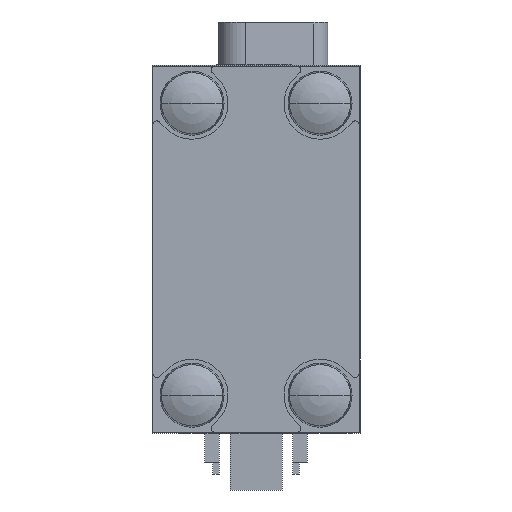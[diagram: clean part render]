
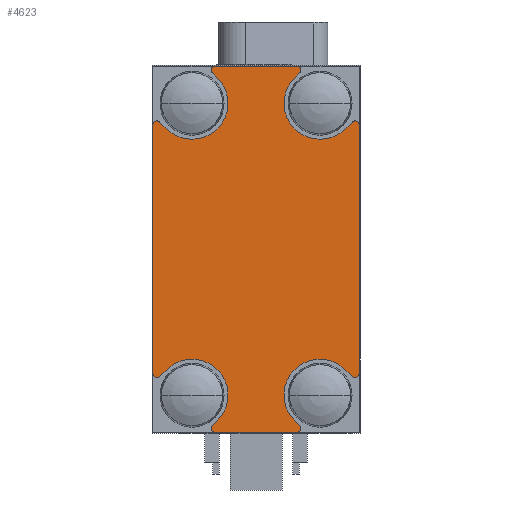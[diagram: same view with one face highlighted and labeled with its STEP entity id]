
A CAD part, front view. The second image highlights one B-rep face of the part: STEP entity #4623.
In plain terms, the highlighted planar face has unit normal (0, -1, 0).
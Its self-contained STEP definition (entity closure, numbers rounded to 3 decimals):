
#1720=DIRECTION('',(0.725,0.,-0.688));
#1721=VECTOR('',#1720,0.76);
#1722=CARTESIAN_POINT('',(4.902,-25.5,-44.514));
#1723=LINE('',#1722,#1721);
#1724=CARTESIAN_POINT('',(5.109,-25.5,-45.4));
#1725=DIRECTION('',(0.,-1.,0.));
#1726=DIRECTION('',(0.,0.,-1.));
#1727=AXIS2_PLACEMENT_3D('',#1724,#1725,#1726);
#1729=DIRECTION('',(1.,0.,0.));
#1730=VECTOR('',#1729,10.219);
#1731=CARTESIAN_POINT('',(-5.109,-25.5,-45.9));
#1732=LINE('',#1731,#1730);
#1733=CARTESIAN_POINT('',(-5.109,-25.5,-45.4));
#1734=DIRECTION('',(0.,-1.,0.));
#1735=DIRECTION('',(-0.688,0.,0.725));
#1736=AXIS2_PLACEMENT_3D('',#1733,#1734,#1735);
#1738=DIRECTION('',(0.725,0.,0.688));
#1739=VECTOR('',#1738,0.76);
#1740=CARTESIAN_POINT('',(-5.454,-25.5,-45.037));
#1741=LINE('',#1740,#1739);
#1742=CARTESIAN_POINT('',(-8.,-25.5,-41.25));
#1743=DIRECTION('',(0.,-1.,0.));
#1744=DIRECTION('',(0.688,0.,-0.725));
#1745=AXIS2_PLACEMENT_3D('',#1742,#1743,#1744);
#1747=DIRECTION('',(-0.725,0.,-0.688));
#1748=VECTOR('',#1747,1.321);
#1749=CARTESIAN_POINT('',(-11.098,-25.5,-37.986));
#1750=LINE('',#1749,#1748);
#1751=CARTESIAN_POINT('',(-12.4,-25.5,-38.532));
#1752=DIRECTION('',(0.,-1.,0.));
#1753=DIRECTION('',(-1.,0.,0.));
#1754=AXIS2_PLACEMENT_3D('',#1751,#1752,#1753);
#1756=DIRECTION('',(0.,0.,-1.));
#1757=VECTOR('',#1756,31.065);
#1758=CARTESIAN_POINT('',(-12.9,-25.5,-7.468));
#1759=LINE('',#1758,#1757);
#1760=CARTESIAN_POINT('',(-12.4,-25.5,-7.468));
#1761=DIRECTION('',(0.,-1.,0.));
#1762=DIRECTION('',(0.688,0.,0.725));
#1763=AXIS2_PLACEMENT_3D('',#1760,#1761,#1762);
#1765=DIRECTION('',(0.725,0.,-0.688));
#1766=VECTOR('',#1765,1.321);
#1767=CARTESIAN_POINT('',(-12.056,-25.5,-7.105));
#1768=LINE('',#1767,#1766);
#1769=CARTESIAN_POINT('',(-8.,-25.5,-4.75));
#1770=DIRECTION('',(0.,-1.,0.));
#1771=DIRECTION('',(-0.688,0.,-0.725));
#1772=AXIS2_PLACEMENT_3D('',#1769,#1770,#1771);
#1774=DIRECTION('',(-0.725,0.,0.688));
#1775=VECTOR('',#1774,0.76);
#1776=CARTESIAN_POINT('',(-4.902,-25.5,-1.486));
#1777=LINE('',#1776,#1775);
#1778=CARTESIAN_POINT('',(-5.109,-25.5,-0.6));
#1779=DIRECTION('',(0.,-1.,0.));
#1780=DIRECTION('',(0.,0.,1.));
#1781=AXIS2_PLACEMENT_3D('',#1778,#1779,#1780);
#1783=DIRECTION('',(-1.,0.,0.));
#1784=VECTOR('',#1783,10.219);
#1785=CARTESIAN_POINT('',(5.109,-25.5,-0.1));
#1786=LINE('',#1785,#1784);
#1787=CARTESIAN_POINT('',(5.109,-25.5,-0.6));
#1788=DIRECTION('',(0.,-1.,0.));
#1789=DIRECTION('',(0.688,0.,-0.725));
#1790=AXIS2_PLACEMENT_3D('',#1787,#1788,#1789);
#1792=DIRECTION('',(-0.725,0.,-0.688));
#1793=VECTOR('',#1792,0.76);
#1794=CARTESIAN_POINT('',(5.454,-25.5,-0.963));
#1795=LINE('',#1794,#1793);
#1796=CARTESIAN_POINT('',(8.,-25.5,-4.75));
#1797=DIRECTION('',(0.,-1.,0.));
#1798=DIRECTION('',(-0.688,0.,0.725));
#1799=AXIS2_PLACEMENT_3D('',#1796,#1797,#1798);
#1801=DIRECTION('',(0.725,0.,0.688));
#1802=VECTOR('',#1801,1.321);
#1803=CARTESIAN_POINT('',(11.098,-25.5,-8.014));
#1804=LINE('',#1803,#1802);
#1805=CARTESIAN_POINT('',(12.4,-25.5,-7.468));
#1806=DIRECTION('',(0.,-1.,0.));
#1807=DIRECTION('',(1.,0.,0.));
#1808=AXIS2_PLACEMENT_3D('',#1805,#1806,#1807);
#1810=DIRECTION('',(0.,0.,1.));
#1811=VECTOR('',#1810,31.065);
#1812=CARTESIAN_POINT('',(12.9,-25.5,-38.532));
#1813=LINE('',#1812,#1811);
#1814=CARTESIAN_POINT('',(12.4,-25.5,-38.532));
#1815=DIRECTION('',(0.,-1.,0.));
#1816=DIRECTION('',(-0.688,0.,-0.725));
#1817=AXIS2_PLACEMENT_3D('',#1814,#1815,#1816);
#1819=DIRECTION('',(-0.725,0.,0.688));
#1820=VECTOR('',#1819,1.321);
#1821=CARTESIAN_POINT('',(12.056,-25.5,-38.895));
#1822=LINE('',#1821,#1820);
#1823=CARTESIAN_POINT('',(8.,-25.5,-41.25));
#1824=DIRECTION('',(0.,-1.,0.));
#1825=DIRECTION('',(0.688,0.,0.725));
#1826=AXIS2_PLACEMENT_3D('',#1823,#1824,#1825);
#2168=CARTESIAN_POINT('',(4.902,-25.5,-44.514));
#2169=CARTESIAN_POINT('',(5.454,-25.5,-45.037));
#2170=VERTEX_POINT('',#2168);
#2171=VERTEX_POINT('',#2169);
#2172=CARTESIAN_POINT('',(5.109,-25.5,-45.9));
#2173=VERTEX_POINT('',#2172);
#2174=CARTESIAN_POINT('',(12.056,-25.5,-38.895));
#2175=CARTESIAN_POINT('',(12.9,-25.5,-38.532));
#2176=VERTEX_POINT('',#2174);
#2177=VERTEX_POINT('',#2175);
#2178=CARTESIAN_POINT('',(11.098,-25.5,-37.986));
#2179=VERTEX_POINT('',#2178);
#2180=CARTESIAN_POINT('',(4.902,-25.5,-1.486));
#2181=CARTESIAN_POINT('',(11.098,-25.5,-8.014));
#2182=VERTEX_POINT('',#2180);
#2183=VERTEX_POINT('',#2181);
#2184=CARTESIAN_POINT('',(12.056,-25.5,-7.105));
#2185=VERTEX_POINT('',#2184);
#2186=CARTESIAN_POINT('',(12.9,-25.5,-7.468));
#2187=VERTEX_POINT('',#2186);
#2188=CARTESIAN_POINT('',(5.454,-25.5,-0.963));
#2189=CARTESIAN_POINT('',(5.109,-25.5,-0.1));
#2190=VERTEX_POINT('',#2188);
#2191=VERTEX_POINT('',#2189);
#2192=CARTESIAN_POINT('',(-4.902,-25.5,-44.514));
#2193=CARTESIAN_POINT('',(-11.098,-25.5,-37.986));
#2194=VERTEX_POINT('',#2192);
#2195=VERTEX_POINT('',#2193);
#2196=CARTESIAN_POINT('',(-12.056,-25.5,-38.895));
#2197=VERTEX_POINT('',#2196);
#2198=CARTESIAN_POINT('',(-12.9,-25.5,-38.532));
#2199=VERTEX_POINT('',#2198);
#2200=CARTESIAN_POINT('',(-5.454,-25.5,-45.037));
#2201=CARTESIAN_POINT('',(-5.109,-25.5,-45.9));
#2202=VERTEX_POINT('',#2200);
#2203=VERTEX_POINT('',#2201);
#2204=CARTESIAN_POINT('',(-4.902,-25.5,-1.486));
#2205=CARTESIAN_POINT('',(-5.454,-25.5,-0.963));
#2206=VERTEX_POINT('',#2204);
#2207=VERTEX_POINT('',#2205);
#2208=CARTESIAN_POINT('',(-5.109,-25.5,-0.1));
#2209=VERTEX_POINT('',#2208);
#2210=CARTESIAN_POINT('',(-12.056,-25.5,-7.105));
#2211=CARTESIAN_POINT('',(-12.9,-25.5,-7.468));
#2212=VERTEX_POINT('',#2210);
#2213=VERTEX_POINT('',#2211);
#2214=CARTESIAN_POINT('',(-11.098,-25.5,-8.014));
#2215=VERTEX_POINT('',#2214);
#4571=CARTESIAN_POINT('',(0.,-25.5,0.));
#4572=DIRECTION('',(0.,-1.,0.));
#4573=DIRECTION('',(1.,0.,0.));
#4574=AXIS2_PLACEMENT_3D('',#4571,#4572,#4573);
#4575=PLANE('',#4574);
#4577=ORIENTED_EDGE('',*,*,#4576,.T.);
#4579=ORIENTED_EDGE('',*,*,#4578,.F.);
#4580=ORIENTED_EDGE('',*,*,#4413,.F.);
#4582=ORIENTED_EDGE('',*,*,#4581,.F.);
#4584=ORIENTED_EDGE('',*,*,#4583,.T.);
#4586=ORIENTED_EDGE('',*,*,#4585,.T.);
#4588=ORIENTED_EDGE('',*,*,#4587,.T.);
#4590=ORIENTED_EDGE('',*,*,#4589,.F.);
#4591=ORIENTED_EDGE('',*,*,#4545,.F.);
#4592=ORIENTED_EDGE('',*,*,#4562,.F.);
#4594=ORIENTED_EDGE('',*,*,#4593,.T.);
#4596=ORIENTED_EDGE('',*,*,#4595,.T.);
#4598=ORIENTED_EDGE('',*,*,#4597,.T.);
#4600=ORIENTED_EDGE('',*,*,#4599,.F.);
#4602=ORIENTED_EDGE('',*,*,#4601,.F.);
#4604=ORIENTED_EDGE('',*,*,#4603,.F.);
#4606=ORIENTED_EDGE('',*,*,#4605,.T.);
#4608=ORIENTED_EDGE('',*,*,#4607,.T.);
#4610=ORIENTED_EDGE('',*,*,#4609,.T.);
#4612=ORIENTED_EDGE('',*,*,#4611,.F.);
#4614=ORIENTED_EDGE('',*,*,#4613,.F.);
#4616=ORIENTED_EDGE('',*,*,#4615,.F.);
#4618=ORIENTED_EDGE('',*,*,#4617,.T.);
#4620=ORIENTED_EDGE('',*,*,#4619,.T.);
#4621=EDGE_LOOP('',(#4577,#4579,#4580,#4582,#4584,#4586,#4588,#4590,#4591,#4592,
#4594,#4596,#4598,#4600,#4602,#4604,#4606,#4608,#4610,#4612,#4614,#4616,#4618,
#4620));
#4622=FACE_OUTER_BOUND('',#4621,.F.);
#4623=ADVANCED_FACE('',(#4622),#4575,.T.);
#1728=CIRCLE('',#1727,0.5);
#1737=CIRCLE('',#1736,0.5);
#1746=CIRCLE('',#1745,4.5);
#1755=CIRCLE('',#1754,0.5);
#1764=CIRCLE('',#1763,0.5);
#1773=CIRCLE('',#1772,4.5);
#1782=CIRCLE('',#1781,0.5);
#1791=CIRCLE('',#1790,0.5);
#1800=CIRCLE('',#1799,4.5);
#1809=CIRCLE('',#1808,0.5);
#1818=CIRCLE('',#1817,0.5);
#1827=CIRCLE('',#1826,4.5);
#4413=EDGE_CURVE('',#2203,#2173,#1732,.T.);
#4545=EDGE_CURVE('',#2213,#2199,#1759,.T.);
#4562=EDGE_CURVE('',#2212,#2213,#1764,.T.);
#4576=EDGE_CURVE('',#2170,#2171,#1723,.T.);
#4578=EDGE_CURVE('',#2173,#2171,#1728,.T.);
#4581=EDGE_CURVE('',#2202,#2203,#1737,.T.);
#4583=EDGE_CURVE('',#2202,#2194,#1741,.T.);
#4585=EDGE_CURVE('',#2194,#2195,#1746,.T.);
#4587=EDGE_CURVE('',#2195,#2197,#1750,.T.);
#4589=EDGE_CURVE('',#2199,#2197,#1755,.T.);
#4593=EDGE_CURVE('',#2212,#2215,#1768,.T.);
#4595=EDGE_CURVE('',#2215,#2206,#1773,.T.);
#4597=EDGE_CURVE('',#2206,#2207,#1777,.T.);
#4599=EDGE_CURVE('',#2209,#2207,#1782,.T.);
#4601=EDGE_CURVE('',#2191,#2209,#1786,.T.);
#4603=EDGE_CURVE('',#2190,#2191,#1791,.T.);
#4605=EDGE_CURVE('',#2190,#2182,#1795,.T.);
#4607=EDGE_CURVE('',#2182,#2183,#1800,.T.);
#4609=EDGE_CURVE('',#2183,#2185,#1804,.T.);
#4611=EDGE_CURVE('',#2187,#2185,#1809,.T.);
#4613=EDGE_CURVE('',#2177,#2187,#1813,.T.);
#4615=EDGE_CURVE('',#2176,#2177,#1818,.T.);
#4617=EDGE_CURVE('',#2176,#2179,#1822,.T.);
#4619=EDGE_CURVE('',#2179,#2170,#1827,.T.);
